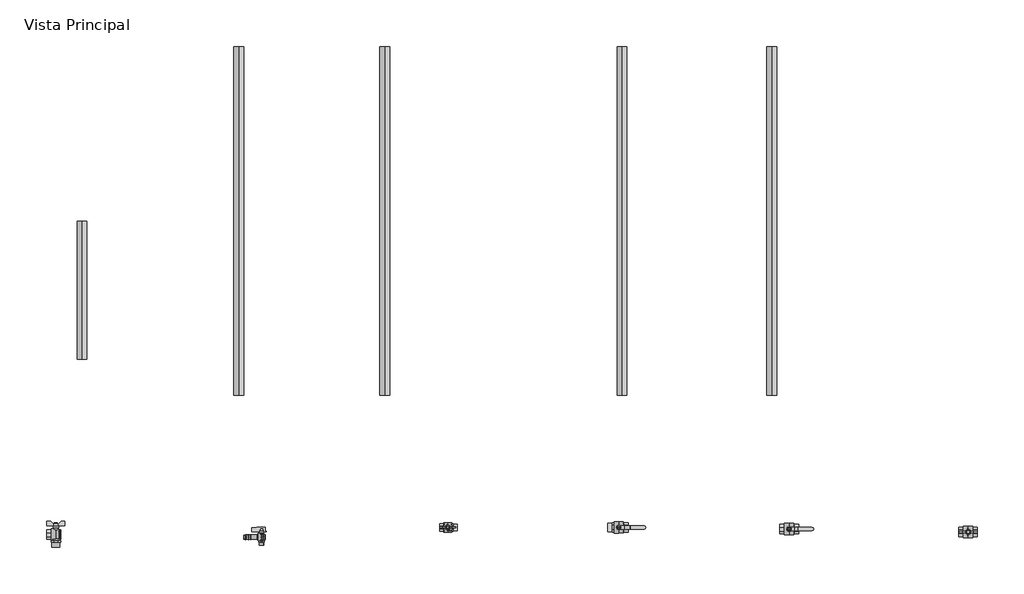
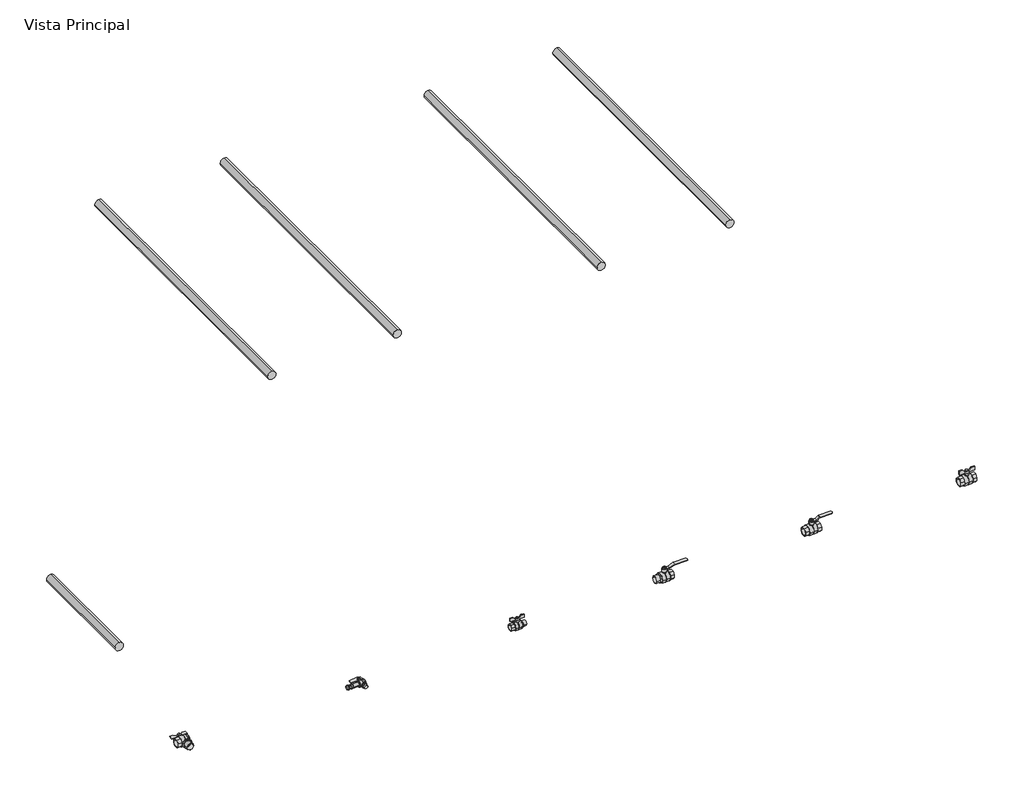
# One storey, incomplete: 6 pipe fittings, 5 pipe segments.
"""IFC4 building model written with IfcOpenShell, lengths in millimetres."""

from ifc_helpers import new_model, si_unit, point, frame, frame_2d, origin, place, context, project, spatial, circle_curve, trimmed, segment, composite_curve, outline, extrude, transform, mapped, element, save
from components import pipe_fitting_b7146942, pipe_fitting_6c45e324, pipe_fitting_f4c530a4, pipe_fitting_82b4f6c6, pipe_fitting_b5fef691, var_6f2e27b9

model = new_model("IFC4")

# Units and contexts
model_context = context("Model", 3, world=origin())
ifc_project = project(units=[si_unit("LENGTHUNIT", "METRE", prefix="MILLI")], contexts=[model_context])

# Site, building, storey
site = spatial("IfcSite", under=ifc_project)
building = spatial("IfcBuilding", under=site)
storey = spatial("IfcBuildingStorey", under=building, Name="Vista Principal", Elevation=0.0)

# Pipe fittings
placement = place(None, origin())
pipe_fitting_shape = pipe_fitting_b7146942(model_context)
element("IfcPipeFitting", 1, ObjectType="AmancoWavin_Gas_Válvula Esfera FF Alavanca : 1\"", at=placement, inside=storey, context=model_context, shape_type="MappedRepresentation", body=[
    mapped(pipe_fitting_shape, transform((2853.7548645, -72.1270235, 0.0), x_axis=(1.0, 0.0, 0.0), y_axis=(0.0, 1.0, 0.0), z_axis=(0.0, 0.0, 1.0))),
])
pipe_fitting_2_shape = pipe_fitting_6c45e324(model_context)
element("IfcPipeFitting", 2, ObjectType="AmancoWavin_Gas_Válvula Esfera FF Borboleta : 1\"", at=placement, inside=storey, context=model_context, shape_type="MappedRepresentation", body=[
    mapped(pipe_fitting_2_shape, transform((3448.8338454, -81.6940256, 0.0), x_axis=(1.0, 0.0, 0.0), y_axis=(0.0, 1.0, 0.0), z_axis=(0.0, 0.0, 1.0))),
])
pipe_fitting_3_shape = pipe_fitting_f4c530a4(model_context)
element("IfcPipeFitting", 3, ObjectType="AmancoWavin_Gas_Válvula Esfera MF Alavanca : 1\"", at=placement, inside=storey, context=model_context, shape_type="MappedRepresentation", body=[
    mapped(pipe_fitting_3_shape, transform((2286.61971, -66.4451853, 0.0), x_axis=(1.0, 0.0, 0.0), y_axis=(0.0, 1.0, 0.0), z_axis=(0.0, 0.0, 1.0))),
])
pipe_fitting_4_shape = pipe_fitting_82b4f6c6(model_context)
element("IfcPipeFitting", 4, ObjectType="AmancoWavin_Gas_Válvula Angular Mangueira GN Alavanca : 1/2\" X 13mm", at=placement, inside=storey, context=model_context, shape_type="MappedRepresentation", body=[
    mapped(pipe_fitting_4_shape, transform((1098.0892334, -98.9381431, 0.0), x_axis=(1.0, 0.0, 0.0), y_axis=(0.0, 1.0, 0.0), z_axis=(0.0, 0.0, 1.0))),
])
pipe_fitting_5_shape = pipe_fitting_b5fef691(model_context)
element("IfcPipeFitting", 5, ObjectType="AmancoWavin_Gas_Válvula Esfera MF Borboleta : 3/4\"", at=placement, inside=storey, context=model_context, shape_type="MappedRepresentation", body=[
    mapped(pipe_fitting_5_shape, transform((1717.1340174, -66.4156374, 0.0), x_axis=(1.0, 0.0, 0.0), y_axis=(0.0, 1.0, 0.0), z_axis=(0.0, 0.0, 1.0))),
])
var_shape = var_6f2e27b9(model_context)
element("IfcPipeFitting", 6, ObjectType="AmancoWavin_Gas_Válvula Angular FM Borboleta (Nested) : Var.", at=placement, inside=storey, context=model_context, shape_type="MappedRepresentation", body=[
    mapped(var_shape, transform((413.3512953, -90.8523583, 0.0), x_axis=(1.0, 0.0, 0.0), y_axis=(0.0, -1.0, 0.0), z_axis=(0.0, 0.0, -1.0))),
])

# Pipe segments
element("IfcPipeSegment", 7, ObjectType="Tubo de Transição Universal", at=placement, inside=storey, context=model_context, shape_type="SweptSolid", body=[
    extrude(outline(composite_curve([segment(trimmed(circle_curve(frame_2d((0.0, 499.9354616)), 16.0), [point((0.0, 483.9354616))], [point((-16.0, 499.9354616))], False, "CARTESIAN"), True, "CONTINUOUS"), segment(trimmed(circle_curve(frame_2d((0.0, 499.9354616)), 16.0), [point((-16.0, 499.9354616))], [point((0.0, 515.9354616))], False, "CARTESIAN"), True, "CONTINUOUS"), segment(trimmed(circle_curve(frame_2d((0.0, 499.9354616)), 16.0), [point((0.0, 515.9354616))], [point((16.0, 499.9354616))], False, "CARTESIAN"), True, "CONTINUOUS"), segment(trimmed(circle_curve(frame_2d((0.0, 499.9354616)), 16.0), [point((16.0, 499.9354616))], [point((0.0, 483.9354616))], False, "CARTESIAN"), True, "CONTINUOUS")], self_intersect=False)), frame((0.0, 492.9987022, 0.0), z_axis=(0.0, 1.0, 0.0), x_axis=(0.0, 0.0, 1.0)), (0.0, 0.0, 1.0), 460.0),
])
element("IfcPipeSegment", 8, ObjectType="Amanco Wavin GÁS Branco Curvas", at=placement, inside=storey, context=model_context, shape_type="SweptSolid", body=[
    extrude(outline(composite_curve([segment(trimmed(circle_curve(frame_2d((1000.0, 2296.61971)), 16.0), [point((1000.0, 2280.61971))], [point((984.0, 2296.61971))], False, "CARTESIAN"), True, "CONTINUOUS"), segment(trimmed(circle_curve(frame_2d((1000.0, 2296.61971)), 16.0), [point((984.0, 2296.61971))], [point((1000.0, 2312.61971))], False, "CARTESIAN"), True, "CONTINUOUS"), segment(trimmed(circle_curve(frame_2d((1000.0, 2296.61971)), 16.0), [point((1000.0, 2312.61971))], [point((1016.0, 2296.61971))], False, "CARTESIAN"), True, "CONTINUOUS"), segment(trimmed(circle_curve(frame_2d((1000.0, 2296.61971)), 16.0), [point((1016.0, 2296.61971))], [point((1000.0, 2280.61971))], False, "CARTESIAN"), True, "CONTINUOUS")], self_intersect=False)), frame((0.0, 373.307502, 0.0), z_axis=(0.0, 1.0, 0.0), x_axis=(0.0, 0.0, 1.0)), (0.0, 0.0, 1.0), 1160.0),
])
element("IfcPipeSegment", 9, ObjectType="Amanco Wavin GÁS Branco Joelho", at=placement, inside=storey, context=model_context, shape_type="SweptSolid", body=[
    extrude(outline(composite_curve([segment(trimmed(circle_curve(frame_2d((1000.0, 2795.257229)), 16.0), [point((1000.0, 2779.257229))], [point((984.0, 2795.257229))], False, "CARTESIAN"), True, "CONTINUOUS"), segment(trimmed(circle_curve(frame_2d((1000.0, 2795.257229)), 16.0), [point((984.0, 2795.257229))], [point((1000.0, 2811.257229))], False, "CARTESIAN"), True, "CONTINUOUS"), segment(trimmed(circle_curve(frame_2d((1000.0, 2795.257229)), 16.0), [point((1000.0, 2811.257229))], [point((1016.0, 2795.257229))], False, "CARTESIAN"), True, "CONTINUOUS"), segment(trimmed(circle_curve(frame_2d((1000.0, 2795.257229)), 16.0), [point((1016.0, 2795.257229))], [point((1000.0, 2779.257229))], False, "CARTESIAN"), True, "CONTINUOUS")], self_intersect=False)), frame((0.0, 373.307502, 0.0), z_axis=(0.0, 1.0, 0.0), x_axis=(0.0, 0.0, 1.0)), (0.0, 0.0, 1.0), 1160.0),
])
element("IfcPipeSegment", 10, ObjectType="Amanco Wavin GÁS Amarelo Curvas", at=placement, inside=storey, context=model_context, shape_type="SweptSolid", body=[
    extrude(outline(composite_curve([segment(trimmed(circle_curve(frame_2d((1000.0, 1021.8451552)), 16.0), [point((1000.0, 1005.8451552))], [point((984.0, 1021.8451552))], False, "CARTESIAN"), True, "CONTINUOUS"), segment(trimmed(circle_curve(frame_2d((1000.0, 1021.8451552)), 16.0), [point((984.0, 1021.8451552))], [point((1000.0, 1037.8451552))], False, "CARTESIAN"), True, "CONTINUOUS"), segment(trimmed(circle_curve(frame_2d((1000.0, 1021.8451552)), 16.0), [point((1000.0, 1037.8451552))], [point((1016.0, 1021.8451552))], False, "CARTESIAN"), True, "CONTINUOUS"), segment(trimmed(circle_curve(frame_2d((1000.0, 1021.8451552)), 16.0), [point((1016.0, 1021.8451552))], [point((1000.0, 1005.8451552))], False, "CARTESIAN"), True, "CONTINUOUS")], self_intersect=False)), frame((0.0, 373.307502, 0.0), z_axis=(0.0, 1.0, 0.0), x_axis=(0.0, 0.0, 1.0)), (0.0, 0.0, 1.0), 1160.0),
])
element("IfcPipeSegment", 11, ObjectType="Amanco Wavin GÁS Amarelo Joelho", at=placement, inside=storey, context=model_context, shape_type="SweptSolid", body=[
    extrude(outline(composite_curve([segment(trimmed(circle_curve(frame_2d((1000.0, 1507.5703595)), 16.0), [point((1000.0, 1491.5703595))], [point((984.0, 1507.5703595))], False, "CARTESIAN"), True, "CONTINUOUS"), segment(trimmed(circle_curve(frame_2d((1000.0, 1507.5703595)), 16.0), [point((984.0, 1507.5703595))], [point((1000.0, 1523.5703595))], False, "CARTESIAN"), True, "CONTINUOUS"), segment(trimmed(circle_curve(frame_2d((1000.0, 1507.5703595)), 16.0), [point((1000.0, 1523.5703595))], [point((1016.0, 1507.5703595))], False, "CARTESIAN"), True, "CONTINUOUS"), segment(trimmed(circle_curve(frame_2d((1000.0, 1507.5703595)), 16.0), [point((1016.0, 1507.5703595))], [point((1000.0, 1491.5703595))], False, "CARTESIAN"), True, "CONTINUOUS")], self_intersect=False)), frame((0.0, 373.307502, 0.0), z_axis=(0.0, 1.0, 0.0), x_axis=(0.0, 0.0, 1.0)), (0.0, 0.0, 1.0), 1160.0),
])

save(model, "model.ifc")
